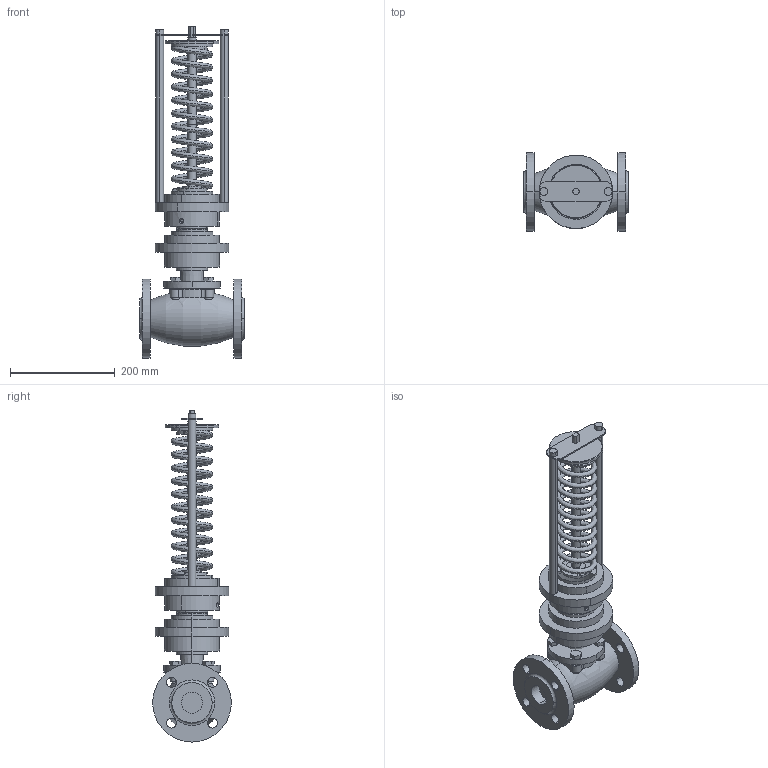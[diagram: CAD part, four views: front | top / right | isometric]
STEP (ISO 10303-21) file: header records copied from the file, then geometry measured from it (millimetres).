
FILE_DESCRIPTION (( 'STEP AP214' ), '1' );
FILE_NAME ('RDT, RDT-P DN-40 (0.1).STEP', '2025-12-12T07:08:37', ( '' ), ( '' ), 'SwSTEP 2.0', 'SolidWorks 2023', '' );
FILE_SCHEMA (( 'AUTOMOTIVE_DESIGN' ));
Length unit declared in the file: millimetre
Products named in the file (4): RDT, RDT-P DN-40 (0.1).stp; RDT, RDT-P DN-40 (0.1); RDT DN-40(______).stp; RDT___ DN-15-100(0.1)_5.stp
Assembly tree (3 placements, depth 3):
  RDT, RDT-P DN-40 (0.1)
    RDT, RDT-P DN-40 (0.1).stp
      RDT___ DN-15-100(0.1)_5.stp
      RDT DN-40(______).stp
Bounding box: 200 x 150 x 633.5 mm (x, y, z)
Volume: 3748082.7 mm3; surface area: 422287.1 mm2
Topology: 2 solids, 2 shells, 220 faces, 541 edges, 352 vertices
Faces by surface type: cylinder 110, plane 91, cone 8, torus 7, bspline 4
Entity records: 13229 total; most frequent: CARTESIAN_POINT 7699, DIRECTION 1205, ORIENTED_EDGE 1082, EDGE_CURVE 541, AXIS2_PLACEMENT_3D 484, VERTEX_POINT 352, EDGE_LOOP 277, CIRCLE 261
